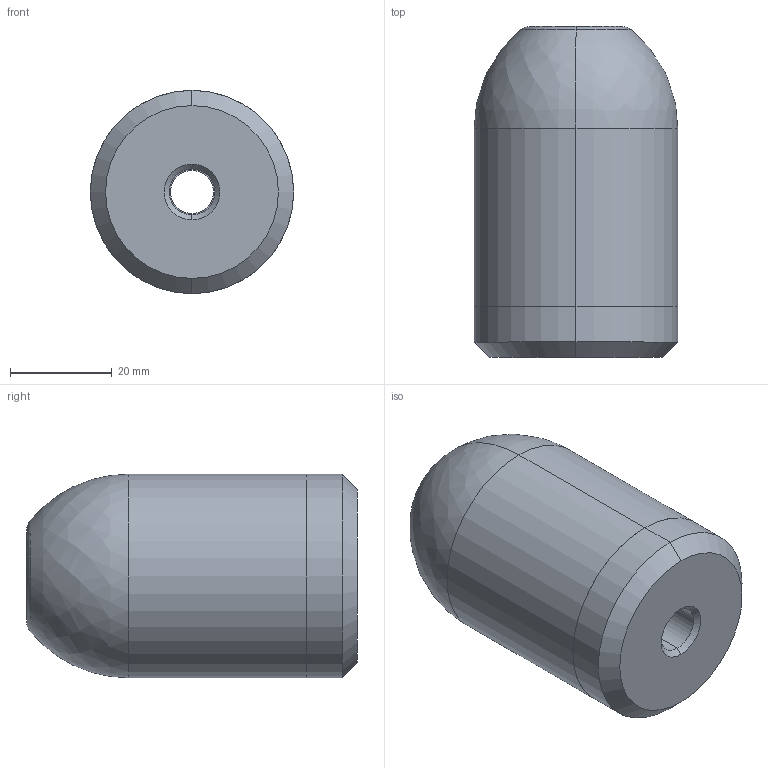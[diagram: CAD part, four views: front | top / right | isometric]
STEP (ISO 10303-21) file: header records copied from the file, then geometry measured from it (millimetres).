
FILE_DESCRIPTION(('CATIA V5 STEP Exchange'),'2;1');
FILE_NAME('C:\Users\Utente\Desktop\IO LAVORO\3D X SITO CF\X SITO\700\700-40-65.stp','2020-11-29T12:12:27+00:00',('none'),('none'),'CATIA Version 5 Release 20 GA (IN-10)','CATIA V5 STEP AP203','none');
FILE_SCHEMA(('CONFIG_CONTROL_DESIGN'));
Length unit declared in the file: millimetre
Products named in the file (1): 700-40-65
Bounding box: 40 x 65 x 40 mm (x, y, z)
Volume: 70593 mm3; surface area: 11063.4 mm2
Topology: 1 solids, 1 shells, 22 faces, 44 edges, 26 vertices
Faces by surface type: cylinder 8, cone 6, plane 4, torus 2, revolution 2
Entity records: 666 total; most frequent: CARTESIAN_POINT 169, ORIENTED_EDGE 88, DIRECTION 84, AXIS2_PLACEMENT_3D 49, EDGE_CURVE 44, CIRCLE 28, EDGE_LOOP 26, VERTEX_POINT 26
